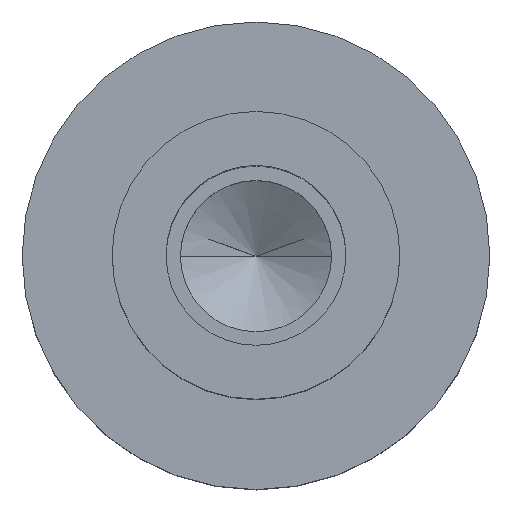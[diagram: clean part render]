
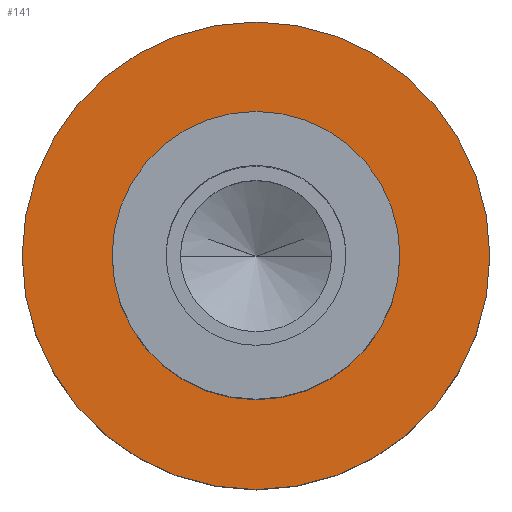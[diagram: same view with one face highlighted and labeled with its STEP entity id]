
A CAD part, top view. The second image highlights one B-rep face of the part: STEP entity #141.
In plain terms, the highlighted planar face has unit normal (0, 0, 1).
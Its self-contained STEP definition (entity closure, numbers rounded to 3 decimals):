
#101=PLANE('',#461);
#109=FACE_BOUND('',#188,.T.);
#110=FACE_BOUND('',#189,.T.);
#141=ADVANCED_FACE('',(#109,#110),#101,.T.);
#188=EDGE_LOOP('',(#279,#280));
#189=EDGE_LOOP('',(#281,#282));
#215=CIRCLE('',#455,4.);
#216=CIRCLE('',#457,4.);
#217=CIRCLE('',#459,6.5);
#218=CIRCLE('',#460,6.5);
#279=ORIENTED_EDGE('',*,*,#378,.F.);
#280=ORIENTED_EDGE('',*,*,#379,.F.);
#281=ORIENTED_EDGE('',*,*,#377,.T.);
#282=ORIENTED_EDGE('',*,*,#375,.T.);
#338=VERTEX_POINT('',#658);
#339=VERTEX_POINT('',#660);
#340=VERTEX_POINT('',#666);
#341=VERTEX_POINT('',#667);
#375=EDGE_CURVE('',#339,#338,#215,.T.);
#377=EDGE_CURVE('',#338,#339,#216,.T.);
#378=EDGE_CURVE('',#340,#341,#217,.T.);
#379=EDGE_CURVE('',#341,#340,#218,.T.);
#455=AXIS2_PLACEMENT_3D('',#659,#542,#543);
#457=AXIS2_PLACEMENT_3D('',#663,#547,#548);
#459=AXIS2_PLACEMENT_3D('',#665,#551,#552);
#460=AXIS2_PLACEMENT_3D('',#668,#553,#554);
#461=AXIS2_PLACEMENT_3D('',#669,#555,#556);
#542=DIRECTION('',(0.,0.,-1.));
#543=DIRECTION('',(0.,1.,0.));
#547=DIRECTION('',(0.,0.,-1.));
#548=DIRECTION('',(0.,-1.,0.));
#551=DIRECTION('',(0.,0.,-1.));
#552=DIRECTION('',(0.,1.,0.));
#553=DIRECTION('',(0.,0.,-1.));
#554=DIRECTION('',(0.,-1.,0.));
#555=DIRECTION('',(0.,0.,1.));
#556=DIRECTION('',(0.,-1.,0.));
#658=CARTESIAN_POINT('',(-4.,0.,0.));
#659=CARTESIAN_POINT('',(0.,0.,0.));
#660=CARTESIAN_POINT('',(4.,0.,0.));
#663=CARTESIAN_POINT('',(0.,0.,0.));
#665=CARTESIAN_POINT('',(0.,0.,0.));
#666=CARTESIAN_POINT('',(6.5,0.,0.));
#667=CARTESIAN_POINT('',(-6.5,0.,0.));
#668=CARTESIAN_POINT('',(0.,0.,0.));
#669=CARTESIAN_POINT('',(0.,0.,0.));
